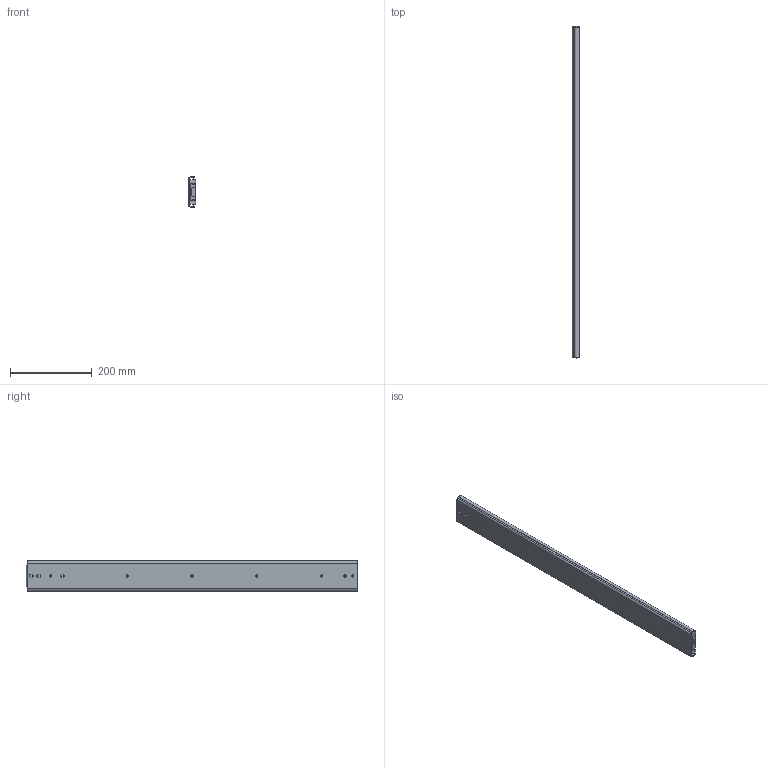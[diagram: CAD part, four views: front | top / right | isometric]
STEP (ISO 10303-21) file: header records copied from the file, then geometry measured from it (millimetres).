
FILE_DESCRIPTION(/* description */ ('Unknown'),/* implementation_level */ '2;1');
FILE_NAME(/* name */ '76J01-32 close',/* time_stamp */ '2024-07-26T16:04:24+08:00',/* author */ ('Unknown'),/* organization */ ('Unknown'),/* preprocessor_version */ 'ST-DEVELOPER v18.104',/* originating_system */ 'Solid Edge',/* authorisation */ 'Unknown');
FILE_SCHEMA (('AUTOMOTIVE_DESIGN {1 0 10303 214 3 1 1}'));
Length unit declared in the file: millimetre
Products named in the file (4): 76J01-32 close; 76J01 32 inch ､ｺ ﾟ; 76J01 32 吋
Assembly tree (3 placements, depth 2):
  76J01-32 close
    76J01 32 inch ､ｺ ﾟ
    76J01 32 吋
    76J01 32 吋
Bounding box: 19.3 x 812.8 x 76.76 mm (x, y, z)
Volume: 637692 mm3; surface area: 397331.1 mm2
Topology: 3 solids, 3 shells, 192 faces, 591 edges, 399 vertices
Faces by surface type: plane 104, cylinder 88
Full cylindrical faces by diameter (mm): 5.2 x13, 7.1 x2
Entity records: 7028 total; most frequent: CARTESIAN_POINT 1144, DIRECTION 1129, ORIENTED_EDGE 1122, EDGE_CURVE 561, VERTEX_POINT 384, LINE 383, VECTOR 383, AXIS2_PLACEMENT_3D 373
